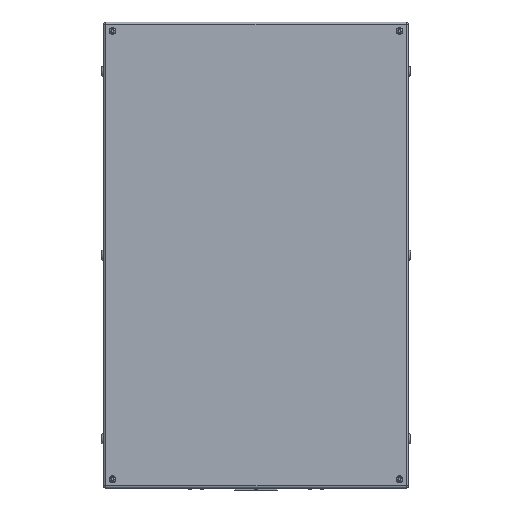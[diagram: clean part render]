
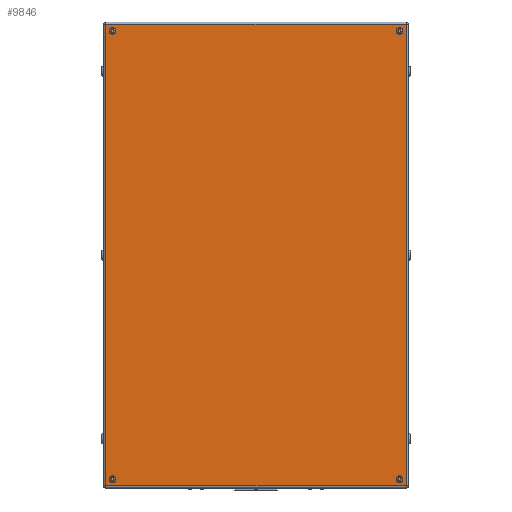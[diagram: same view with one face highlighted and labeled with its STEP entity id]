
A CAD part, front view. The second image highlights one B-rep face of the part: STEP entity #9846.
In plain terms, the highlighted planar face has unit normal (0, -1, 0).
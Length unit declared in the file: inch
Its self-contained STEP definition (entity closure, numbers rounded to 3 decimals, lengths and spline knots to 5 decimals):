
#24 = DIRECTION ( 'NONE',  ( 0., -1., 0. ) ) ;
#116 = CARTESIAN_POINT ( 'NONE',  ( -16., -12., 24.62598 ) ) ;
#167 = EDGE_LOOP ( 'NONE', ( #6555, #4289 ) ) ;
#178 = CARTESIAN_POINT ( 'NONE',  ( -16., -12., 25. ) ) ;
#316 = VERTEX_POINT ( 'NONE', #4099 ) ;
#422 = VERTEX_POINT ( 'NONE', #16173 ) ;
#433 = CARTESIAN_POINT ( 'NONE',  ( -16., -12., -25. ) ) ;
#469 = DIRECTION ( 'NONE',  ( 0., 0., -1. ) ) ;
#573 = CARTESIAN_POINT ( 'NONE',  ( 16., -12., -25.37402 ) ) ;
#661 = CARTESIAN_POINT ( 'NONE',  ( 16., -12., -24.62598 ) ) ;
#1046 = EDGE_LOOP ( 'NONE', ( #11282, #15637 ) ) ;
#1104 = DIRECTION ( 'NONE',  ( 0., 0., -1. ) ) ;
#1202 = AXIS2_PLACEMENT_3D ( 'NONE', #15610, #7022, #11665 ) ;
#1238 = DIRECTION ( 'NONE',  ( 0., -1., 0. ) ) ;
#1362 = VERTEX_POINT ( 'NONE', #6192 ) ;
#1709 = VECTOR ( 'NONE', #8106, 39.37008 ) ;
#1798 = EDGE_LOOP ( 'NONE', ( #8277, #15991 ) ) ;
#1895 = CARTESIAN_POINT ( 'NONE',  ( -16., -12., 25.37402 ) ) ;
#2044 = EDGE_CURVE ( 'NONE', #316, #422, #5625, .T. ) ;
#2170 = DIRECTION ( 'NONE',  ( 0., -1., 0. ) ) ;
#2382 = EDGE_CURVE ( 'NONE', #422, #316, #8053, .T. ) ;
#2436 = DIRECTION ( 'NONE',  ( -1., 0., 0. ) ) ;
#2441 = CIRCLE ( 'NONE', #6153, 0.37402 ) ;
#2831 = EDGE_CURVE ( 'NONE', #14784, #5452, #7939, .T. ) ;
#3262 = VECTOR ( 'NONE', #16228, 39.37008 ) ;
#3289 = DIRECTION ( 'NONE',  ( 0., 0., -1. ) ) ;
#3431 = EDGE_CURVE ( 'NONE', #5553, #14784, #13764, .T. ) ;
#3655 = VERTEX_POINT ( 'NONE', #116 ) ;
#4099 = CARTESIAN_POINT ( 'NONE',  ( -16., -12., -25.37402 ) ) ;
#4126 = ORIENTED_EDGE ( 'NONE', *, *, #2831, .T. ) ;
#4162 = CARTESIAN_POINT ( 'NONE',  ( 0., -12., 0. ) ) ;
#4289 = ORIENTED_EDGE ( 'NONE', *, *, #5855, .F. ) ;
#4323 = ORIENTED_EDGE ( 'NONE', *, *, #3431, .T. ) ;
#4376 = DIRECTION ( 'NONE',  ( 0., -1., 0. ) ) ;
#4557 = AXIS2_PLACEMENT_3D ( 'NONE', #14774, #11169, #11265 ) ;
#4684 = EDGE_CURVE ( 'NONE', #3655, #14136, #2441, .T. ) ;
#4844 = CIRCLE ( 'NONE', #11199, 0.37402 ) ;
#4857 = CARTESIAN_POINT ( 'NONE',  ( 16., -12., -25. ) ) ;
#4967 = PLANE ( 'NONE',  #9746 ) ;
#5121 = VERTEX_POINT ( 'NONE', #661 ) ;
#5452 = VERTEX_POINT ( 'NONE', #12364 ) ;
#5553 = VERTEX_POINT ( 'NONE', #11695 ) ;
#5561 = VERTEX_POINT ( 'NONE', #11553 ) ;
#5625 = CIRCLE ( 'NONE', #10394, 0.37402 ) ;
#5836 = DIRECTION ( 'NONE',  ( 0., -1., 0. ) ) ;
#5855 = EDGE_CURVE ( 'NONE', #1362, #5561, #9880, .T. ) ;
#5978 = DIRECTION ( 'NONE',  ( 0., -1., 0. ) ) ;
#6118 = FACE_OUTER_BOUND ( 'NONE', #7743, .T. ) ;
#6153 = AXIS2_PLACEMENT_3D ( 'NONE', #178, #2170, #3289 ) ;
#6192 = CARTESIAN_POINT ( 'NONE',  ( 16., -12., 24.62598 ) ) ;
#6202 = EDGE_CURVE ( 'NONE', #6724, #5121, #4844, .T. ) ;
#6279 = CARTESIAN_POINT ( 'NONE',  ( -16.734, -12., -25.734 ) ) ;
#6555 = ORIENTED_EDGE ( 'NONE', *, *, #7933, .F. ) ;
#6652 = VECTOR ( 'NONE', #2436, 39.37008 ) ;
#6724 = VERTEX_POINT ( 'NONE', #573 ) ;
#7022 = DIRECTION ( 'NONE',  ( 0., -1., 0. ) ) ;
#7077 = EDGE_CURVE ( 'NONE', #5121, #6724, #12819, .T. ) ;
#7090 = DIRECTION ( 'NONE',  ( 0., 0., 1. ) ) ;
#7280 = CARTESIAN_POINT ( 'NONE',  ( 16., -12., -25. ) ) ;
#7708 = FACE_BOUND ( 'NONE', #1798, .T. ) ;
#7717 = CARTESIAN_POINT ( 'NONE',  ( -16., -12., -25. ) ) ;
#7743 = EDGE_LOOP ( 'NONE', ( #12202, #10746, #4323, #4126 ) ) ;
#7780 = AXIS2_PLACEMENT_3D ( 'NONE', #15143, #5978, #1104 ) ;
#7875 = DIRECTION ( 'NONE',  ( 0., -1., 0. ) ) ;
#7933 = EDGE_CURVE ( 'NONE', #5561, #1362, #10977, .T. ) ;
#7939 = LINE ( 'NONE', #14248, #1709 ) ;
#8053 = CIRCLE ( 'NONE', #16296, 0.37402 ) ;
#8106 = DIRECTION ( 'NONE',  ( 1., 0., 0. ) ) ;
#8277 = ORIENTED_EDGE ( 'NONE', *, *, #12465, .F. ) ;
#8374 = EDGE_CURVE ( 'NONE', #5452, #11831, #11305, .T. ) ;
#8650 = FACE_BOUND ( 'NONE', #13796, .T. ) ;
#9746 = AXIS2_PLACEMENT_3D ( 'NONE', #4162, #7875, #469 ) ;
#9846 = ADVANCED_FACE ( 'NONE', ( #15288, #8650, #7708, #15042, #6118 ), #4967, .T. ) ;
#9880 = CIRCLE ( 'NONE', #4557, 0.37402 ) ;
#10394 = AXIS2_PLACEMENT_3D ( 'NONE', #433, #4376, #15627 ) ;
#10746 = ORIENTED_EDGE ( 'NONE', *, *, #15948, .T. ) ;
#10773 = CARTESIAN_POINT ( 'NONE',  ( 16.734, -12., 25.734 ) ) ;
#10977 = CIRCLE ( 'NONE', #1202, 0.37402 ) ;
#11015 = CARTESIAN_POINT ( 'NONE',  ( -16.734, -12., -25.734 ) ) ;
#11142 = DIRECTION ( 'NONE',  ( 0., 0., 1. ) ) ;
#11169 = DIRECTION ( 'NONE',  ( 0., -1., 0. ) ) ;
#11199 = AXIS2_PLACEMENT_3D ( 'NONE', #7280, #5836, #7090 ) ;
#11265 = DIRECTION ( 'NONE',  ( 0., 0., 1. ) ) ;
#11282 = ORIENTED_EDGE ( 'NONE', *, *, #2382, .F. ) ;
#11305 = LINE ( 'NONE', #12188, #3262 ) ;
#11553 = CARTESIAN_POINT ( 'NONE',  ( 16., -12., 25.37402 ) ) ;
#11665 = DIRECTION ( 'NONE',  ( 0., 0., 1. ) ) ;
#11695 = CARTESIAN_POINT ( 'NONE',  ( -16.734, -12., 25.734 ) ) ;
#11744 = AXIS2_PLACEMENT_3D ( 'NONE', #4857, #1238, #11142 ) ;
#11831 = VERTEX_POINT ( 'NONE', #10773 ) ;
#12188 = CARTESIAN_POINT ( 'NONE',  ( 16.734, -12., 25.734 ) ) ;
#12202 = ORIENTED_EDGE ( 'NONE', *, *, #8374, .T. ) ;
#12364 = CARTESIAN_POINT ( 'NONE',  ( 16.734, -12., -25.734 ) ) ;
#12465 = EDGE_CURVE ( 'NONE', #14136, #3655, #15998, .T. ) ;
#12658 = DIRECTION ( 'NONE',  ( 0., 0., -1. ) ) ;
#12819 = CIRCLE ( 'NONE', #11744, 0.37402 ) ;
#13200 = ORIENTED_EDGE ( 'NONE', *, *, #6202, .F. ) ;
#13421 = DIRECTION ( 'NONE',  ( 0., 0., -1. ) ) ;
#13574 = ORIENTED_EDGE ( 'NONE', *, *, #7077, .F. ) ;
#13672 = VECTOR ( 'NONE', #13421, 39.37008 ) ;
#13764 = LINE ( 'NONE', #11015, #13672 ) ;
#13796 = EDGE_LOOP ( 'NONE', ( #13574, #13200 ) ) ;
#14136 = VERTEX_POINT ( 'NONE', #1895 ) ;
#14248 = CARTESIAN_POINT ( 'NONE',  ( 16.734, -12., -25.734 ) ) ;
#14774 = CARTESIAN_POINT ( 'NONE',  ( 16., -12., 25. ) ) ;
#14784 = VERTEX_POINT ( 'NONE', #6279 ) ;
#15042 = FACE_BOUND ( 'NONE', #1046, .T. ) ;
#15093 = LINE ( 'NONE', #15179, #6652 ) ;
#15143 = CARTESIAN_POINT ( 'NONE',  ( -16., -12., 25. ) ) ;
#15179 = CARTESIAN_POINT ( 'NONE',  ( -16.734, -12., 25.734 ) ) ;
#15288 = FACE_BOUND ( 'NONE', #167, .T. ) ;
#15610 = CARTESIAN_POINT ( 'NONE',  ( 16., -12., 25. ) ) ;
#15627 = DIRECTION ( 'NONE',  ( 0., 0., -1. ) ) ;
#15637 = ORIENTED_EDGE ( 'NONE', *, *, #2044, .F. ) ;
#15948 = EDGE_CURVE ( 'NONE', #11831, #5553, #15093, .T. ) ;
#15991 = ORIENTED_EDGE ( 'NONE', *, *, #4684, .F. ) ;
#15998 = CIRCLE ( 'NONE', #7780, 0.37402 ) ;
#16173 = CARTESIAN_POINT ( 'NONE',  ( -16., -12., -24.62598 ) ) ;
#16228 = DIRECTION ( 'NONE',  ( 0., 0., 1. ) ) ;
#16296 = AXIS2_PLACEMENT_3D ( 'NONE', #7717, #24, #12658 ) ;
